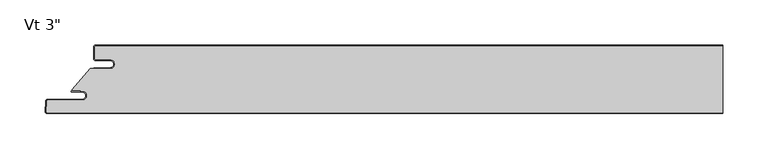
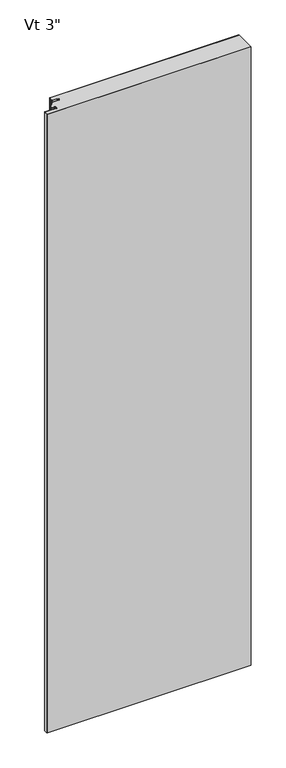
"""IFC4 building model written with IfcOpenShell, lengths in millimetres: plate geometry."""

from ifc_helpers import new_model, si_unit, point, frame_2d, origin, origin_with_axes, place, context, project, spatial, polyline, circle_curve, trimmed, segment, composite_curve, outline, extrude, source, transform, mapped, element, save


def plate_bcd3ad99(model_context):
    return source(origin(), model_context, "Body", "SweptSolid", [
        extrude(outline(composite_curve([segment(polyline([(-329.8499998, -16.4625), (-345.7249998, -16.4625)]), True, "CONTINUOUS"), segment(trimmed(circle_curve(frame_2d((-345.7249998, -15.08125)), 1.38125), [point((-345.7249998, -16.4625))], [point((-347.1062498, -15.08125))], False, "CARTESIAN"), True, "CONTINUOUS"), segment(polyline([(-347.1062498, -15.08125), (-347.1062498, -2.38125)]), True, "CONTINUOUS"), segment(trimmed(circle_curve(frame_2d((-345.7249998, -2.38125)), 1.38125), [point((-347.1062498, -2.38125))], [point((-345.7249998, -1.0))], False, "CARTESIAN"), True, "CONTINUOUS"), segment(polyline([(-345.7249998, -1.0), (348.8999998, -1.0), (348.8999998, -75.2), (-399.5862034, -75.2)]), True, "CONTINUOUS"), segment(trimmed(circle_curve(frame_2d((-399.5862034, -73.81875)), 1.38125), [point((-399.5862034, -75.2))], [point((-400.9655604, -73.746461))], False, "CARTESIAN"), True, "CONTINUOUS"), segment(polyline([(-400.9655604, -73.746461), (-400.383179, -62.633961)]), True, "CONTINUOUS"), segment(trimmed(circle_curve(frame_2d((-399.0038219, -62.70625)), 1.38125), [point((-400.383179, -62.633961))], [point((-399.0038219, -61.325))], False, "CARTESIAN"), True, "CONTINUOUS"), segment(polyline([(-399.0038219, -61.325), (-360.8205173, -61.325)]), True, "CONTINUOUS"), segment(trimmed(circle_curve(frame_2d((-360.8205173, -56.35625)), 4.96875), [point((-360.8205173, -61.325))], [point((-360.8205173, -51.3875))], True, "CARTESIAN"), True, "CONTINUOUS"), segment(polyline([(-360.8205173, -51.3875), (-362.4080173, -51.59375), (-362.4080173, -50.8), (-371.9187498, -50.8), (-371.9187498, -49.2157227), (-352.0323421, -26.4), (-329.8499998, -26.4)]), True, "CONTINUOUS"), segment(trimmed(circle_curve(frame_2d((-329.8499998, -21.43125)), 4.96875), [point((-329.8499998, -26.4))], [point((-329.8499998, -16.4625))], True, "CARTESIAN"), True, "CONTINUOUS")], self_intersect=False)), origin_with_axes(), (0.0, 0.0, 1.0), 2400.0),
        extrude(outline(composite_curve([segment(polyline([(-348.1062498, -25.4), (-329.8499998, -25.4)]), True, "CONTINUOUS"), segment(trimmed(circle_curve(frame_2d((-329.8499998, -21.43125)), 3.96875), [point((-329.8499998, -25.4))], [point((-329.8499998, -17.4625))], True, "CARTESIAN"), True, "CONTINUOUS"), segment(polyline([(-329.8499998, -17.4625), (-345.7249998, -17.4625)]), True, "CONTINUOUS"), segment(trimmed(circle_curve(frame_2d((-345.7249998, -15.08125)), 2.38125), [point((-345.7249998, -17.4625))], [point((-348.1062498, -15.08125))], False, "CARTESIAN"), True, "CONTINUOUS"), segment(polyline([(-348.1062498, -15.08125), (-348.1062498, -2.38125)]), True, "CONTINUOUS"), segment(trimmed(circle_curve(frame_2d((-345.7249998, -2.38125)), 2.38125), [point((-348.1062498, -2.38125))], [point((-345.7249998, 0.0))], False, "CARTESIAN"), True, "CONTINUOUS"), segment(polyline([(-345.7249998, 0.0), (348.8999998, 0.0), (348.8999998, -1.0), (-345.7249998, -1.0)]), True, "CONTINUOUS"), segment(trimmed(circle_curve(frame_2d((-345.7249998, -2.38125)), 1.38125), [point((-345.7249998, -1.0))], [point((-347.1062498, -2.38125))], True, "CARTESIAN"), True, "CONTINUOUS"), segment(polyline([(-347.1062498, -2.38125), (-347.1062498, -15.08125)]), True, "CONTINUOUS"), segment(trimmed(circle_curve(frame_2d((-345.7249998, -15.08125)), 1.38125), [point((-347.1062498, -15.08125))], [point((-345.7249998, -16.4625))], True, "CARTESIAN"), True, "CONTINUOUS"), segment(polyline([(-345.7249998, -16.4625), (-329.8499998, -16.4625)]), True, "CONTINUOUS"), segment(trimmed(circle_curve(frame_2d((-329.8499998, -21.43125)), 4.96875), [point((-329.8499998, -16.4625))], [point((-329.8499998, -26.4))], False, "CARTESIAN"), True, "CONTINUOUS"), segment(polyline([(-329.8499998, -26.4), (-348.1062498, -26.4), (-348.1062498, -25.4)]), True, "CONTINUOUS")], self_intersect=False)), origin_with_axes(), (0.0, 0.0, 1.0), 2400.0),
        extrude(outline(composite_curve([segment(polyline([(-372.1314548, -50.8), (-362.4080173, -50.8), (-362.4080173, -51.59375), (-360.8205173, -51.3875)]), True, "CONTINUOUS"), segment(trimmed(circle_curve(frame_2d((-360.8205173, -56.35625)), 4.96875), [point((-360.8205173, -51.3875))], [point((-360.8205173, -61.325))], False, "CARTESIAN"), True, "CONTINUOUS"), segment(polyline([(-360.8205173, -61.325), (-399.0038219, -61.325)]), True, "CONTINUOUS"), segment(trimmed(circle_curve(frame_2d((-399.0038219, -62.70625)), 1.38125), [point((-399.0038219, -61.325))], [point((-400.383179, -62.633961))], True, "CARTESIAN"), True, "CONTINUOUS"), segment(polyline([(-400.383179, -62.633961), (-400.9655604, -73.746461)]), True, "CONTINUOUS"), segment(trimmed(circle_curve(frame_2d((-399.5862034, -73.81875)), 1.38125), [point((-400.9655604, -73.746461))], [point((-399.5862034, -75.2))], True, "CARTESIAN"), True, "CONTINUOUS"), segment(polyline([(-399.5862034, -75.2), (348.8999998, -75.2), (348.8999998, -76.2), (-399.5862034, -76.2)]), True, "CONTINUOUS"), segment(trimmed(circle_curve(frame_2d((-399.5862034, -73.81875)), 2.38125), [point((-399.5862034, -76.2))], [point((-401.9641899, -73.694125))], False, "CARTESIAN"), True, "CONTINUOUS"), segment(polyline([(-401.9641899, -73.694125), (-401.3818085, -62.581625)]), True, "CONTINUOUS"), segment(trimmed(circle_curve(frame_2d((-399.0038219, -62.70625)), 2.38125), [point((-401.3818085, -62.581625))], [point((-399.0038219, -60.325))], False, "CARTESIAN"), True, "CONTINUOUS"), segment(polyline([(-399.0038219, -60.325), (-360.8205173, -60.325)]), True, "CONTINUOUS"), segment(trimmed(circle_curve(frame_2d((-360.8205173, -56.35625)), 3.96875), [point((-360.8205173, -60.325))], [point((-360.8205173, -52.3875))], True, "CARTESIAN"), True, "CONTINUOUS"), segment(polyline([(-360.8205173, -52.3875), (-372.1314548, -52.3875)]), True, "CONTINUOUS"), segment(trimmed(circle_curve(frame_2d((-372.1314548, -51.59375)), 0.79375), [point((-372.1314548, -52.3875))], [point((-372.1314548, -50.8))], False, "CARTESIAN"), True, "CONTINUOUS")], self_intersect=False)), origin_with_axes(), (0.0, 0.0, 1.0), 2400.0),
    ])


if __name__ == "__main__":
    model = new_model("IFC4")
    model_context = context("Model", 3, world=origin())
    ifc_project = project(units=[si_unit("LENGTHUNIT", "METRE", prefix="MILLI")], contexts=[model_context])
    site = spatial("IfcSite", under=ifc_project)
    building = spatial("IfcBuilding", under=site)
    placement = place(None, origin())
    plate_shape = plate_bcd3ad99(model_context)
    element("IfcPlate", 1, ObjectType="KIP-30-DWTR-R19-CP-Vt-F : Vt 3\"", at=placement, inside=building, context=model_context, shape_type="MappedRepresentation", body=[
        mapped(plate_shape, transform((0.0, 0.0, 0.0), x_axis=(1.0, 0.0, 0.0), y_axis=(0.0, 1.0, 0.0), z_axis=(0.0, 0.0, 1.0))),
    ])
    save(model, "model.ifc")
